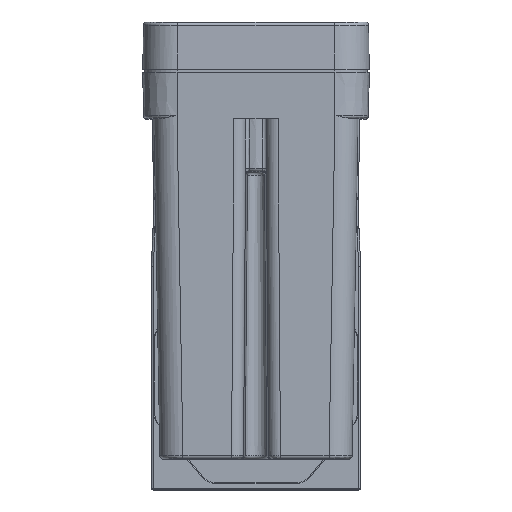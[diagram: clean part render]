
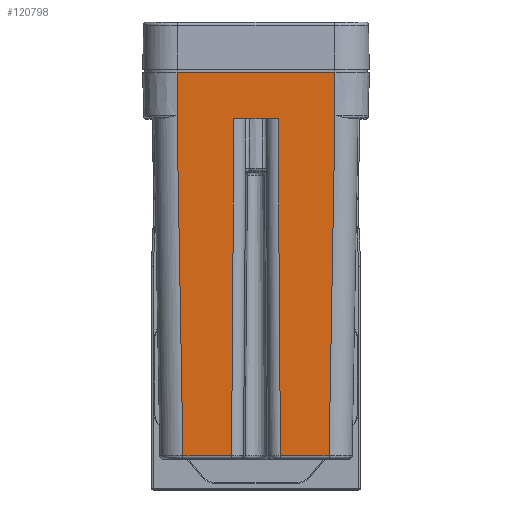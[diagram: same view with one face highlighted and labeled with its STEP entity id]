
A CAD part, top view. The second image highlights one B-rep face of the part: STEP entity #120798.
In plain terms, the highlighted planar face has unit normal (0, -0.018, 1).
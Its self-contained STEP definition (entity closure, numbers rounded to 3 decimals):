
#4685=DIRECTION('',(1.,0.,0.));
#4686=VECTOR('',#4685,6.418);
#4687=CARTESIAN_POINT('',(-3.209,37.5,30.881));
#4688=LINE('',#4687,#4686);
#4849=DIRECTION('',(-1.,0.,0.));
#4850=VECTOR('',#4849,7.08);
#4851=CARTESIAN_POINT('',(10.644,-11.559,30.025));
#4852=LINE('',#4851,#4850);
#4853=DIRECTION('',(-0.007,1.,0.017));
#4854=VECTOR('',#4853,49.067);
#4855=CARTESIAN_POINT('',(3.564,-11.559,30.025));
#4856=LINE('',#4855,#4854);
#4857=DIRECTION('',(-0.007,-1.,-0.017));
#4858=VECTOR('',#4857,49.067);
#4859=CARTESIAN_POINT('',(-3.209,37.5,30.881));
#4860=LINE('',#4859,#4858);
#4861=DIRECTION('',(-1.,0.,0.));
#4862=VECTOR('',#4861,7.08);
#4863=CARTESIAN_POINT('',(-3.564,-11.559,
30.025));
#4864=LINE('',#4863,#4862);
#4865=DIRECTION('',(0.001,1.,0.017));
#4866=VECTOR('',#4865,6.31);
#4867=CARTESIAN_POINT('',(-11.505,37.991,30.89));
#4868=LINE('',#4867,#4866);
#4874=DIRECTION('',(-0.001,1.,0.017));
#4875=VECTOR('',#4874,6.31);
#4876=CARTESIAN_POINT('',(11.505,37.991,30.89));
#4877=LINE('',#4876,#4875);
#5337=DIRECTION('',(0.017,1.,0.017));
#5338=VECTOR('',#5337,49.565);
#5339=CARTESIAN_POINT('',(10.644,-11.559,30.025));
#5340=LINE('',#5339,#5338);
#5475=CARTESIAN_POINT('',(10.644,-11.559,30.025));
#12419=DIRECTION('',(1.,0.,0.));
#12420=VECTOR('',#12419,23.);
#12421=CARTESIAN_POINT('',(-11.5,44.3,31.));
#12422=LINE('',#12421,#12420);
#12566=DIRECTION('',(0.017,-1.,-0.017));
#12567=VECTOR('',#12566,49.565);
#12568=CARTESIAN_POINT('',(-11.505,37.991,
30.89));
#12569=LINE('',#12568,#12567);
#110141=CARTESIAN_POINT('',(-11.5,44.3,31.));
#110143=VERTEX_POINT('',#110141);
#110144=CARTESIAN_POINT('',(11.5,44.3,31.));
#110146=VERTEX_POINT('',#110144);
#110464=CARTESIAN_POINT('',(-11.5,37.991,30.89));
#110466=VERTEX_POINT('',#110464);
#110479=CARTESIAN_POINT('',(11.5,37.991,30.89));
#110481=VERTEX_POINT('',#110479);
#110525=CARTESIAN_POINT('',(-3.564,-11.559,
30.025));
#110526=CARTESIAN_POINT('',(-10.644,-11.559,
30.025));
#110527=VERTEX_POINT('',#110525);
#110528=VERTEX_POINT('',#110526);
#110534=VERTEX_POINT('',#5475);
#110537=CARTESIAN_POINT('',(3.564,-11.559,
30.025));
#110538=VERTEX_POINT('',#110537);
#110539=CARTESIAN_POINT('',(-3.209,37.5,30.881));
#110540=CARTESIAN_POINT('',(3.209,37.5,30.881));
#110541=VERTEX_POINT('',#110539);
#110542=VERTEX_POINT('',#110540);
#120775=CARTESIAN_POINT('',(-14.975,44.3,31.));
#120776=DIRECTION('',(0.,-0.017,1.));
#120777=DIRECTION('',(1.,0.,0.));
#120778=AXIS2_PLACEMENT_3D('',#120775,#120776,#120777);
#120779=PLANE('',#120778);
#120781=ORIENTED_EDGE('',*,*,#120780,.F.);
#120783=ORIENTED_EDGE('',*,*,#120782,.F.);
#120784=ORIENTED_EDGE('',*,*,#120443,.T.);
#120786=ORIENTED_EDGE('',*,*,#120785,.T.);
#120787=ORIENTED_EDGE('',*,*,#120678,.F.);
#120788=ORIENTED_EDGE('',*,*,#120694,.T.);
#120789=ORIENTED_EDGE('',*,*,#120766,.T.);
#120791=ORIENTED_EDGE('',*,*,#120790,.F.);
#120793=ORIENTED_EDGE('',*,*,#120792,.T.);
#120795=ORIENTED_EDGE('',*,*,#120794,.T.);
#120796=EDGE_LOOP('',(#120781,#120783,#120784,#120786,#120787,#120788,#120789,
#120791,#120793,#120795));
#120797=FACE_OUTER_BOUND('',#120796,.F.);
#120443=EDGE_CURVE('',#110534,#110538,#4852,.T.);
#120678=EDGE_CURVE('',#110541,#110542,#4688,.T.);
#120694=EDGE_CURVE('',#110541,#110527,#4860,.T.);
#120766=EDGE_CURVE('',#110527,#110528,#4864,.T.);
#120780=EDGE_CURVE('',#110481,#110146,#4877,.T.);
#120782=EDGE_CURVE('',#110534,#110481,#5340,.T.);
#120785=EDGE_CURVE('',#110538,#110542,#4856,.T.);
#120790=EDGE_CURVE('',#110466,#110528,#12569,.T.);
#120792=EDGE_CURVE('',#110466,#110143,#4868,.T.);
#120794=EDGE_CURVE('',#110143,#110146,#12422,.T.);
#120798=ADVANCED_FACE('',(#120797),#120779,.T.);
